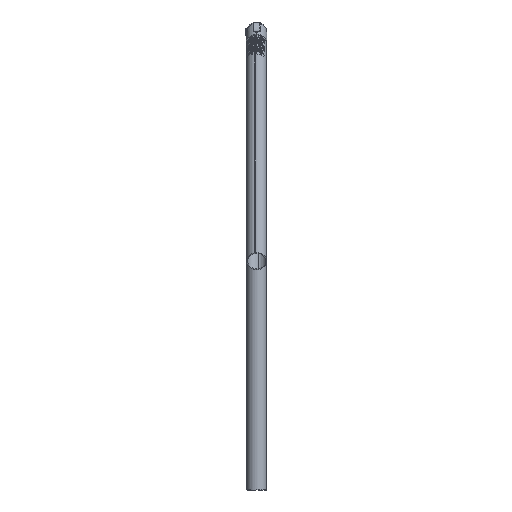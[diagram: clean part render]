
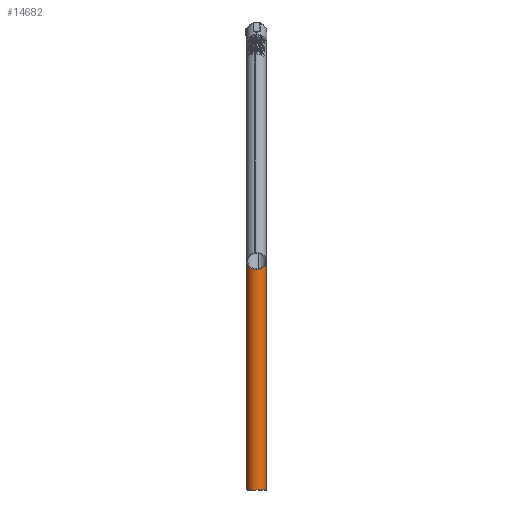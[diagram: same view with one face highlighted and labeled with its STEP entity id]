
A CAD part, left-side view. The second image highlights one B-rep face of the part: STEP entity #14682.
In plain terms, the highlighted cylindrical face has radius 13.716 mm (diameter 27.432 mm), a partial arc.
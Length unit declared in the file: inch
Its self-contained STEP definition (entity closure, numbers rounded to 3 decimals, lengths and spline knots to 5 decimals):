
#575 = CIRCLE ( 'NONE', #4131, 0.54 ) ;
#1312 = AXIS2_PLACEMENT_3D ( 'NONE', #3614, #3832, #11319 ) ;
#2403 = LINE ( 'NONE', #6441, #5381 ) ;
#2982 = VERTEX_POINT ( 'NONE', #7430 ) ;
#3614 = CARTESIAN_POINT ( 'NONE',  ( 0., 0., 0. ) ) ;
#3832 = DIRECTION ( 'NONE',  ( 1., 0., 0. ) ) ;
#3876 = FACE_OUTER_BOUND ( 'NONE', #8111, .T. ) ;
#4131 = AXIS2_PLACEMENT_3D ( 'NONE', #12816, #11948, #10376 ) ;
#4888 = CARTESIAN_POINT ( 'NONE',  ( 0., 0., 0.54 ) ) ;
#4964 = ORIENTED_EDGE ( 'NONE', *, *, #7136, .T. ) ;
#5061 = EDGE_CURVE ( 'NONE', #8481, #15756, #11317, .T. ) ;
#5381 = VECTOR ( 'NONE', #11294, 39.37008 ) ;
#6441 = CARTESIAN_POINT ( 'NONE',  ( 0., 0., -0.54 ) ) ;
#6928 = CYLINDRICAL_SURFACE ( 'NONE', #1312, 0.54 ) ;
#7136 = EDGE_CURVE ( 'NONE', #2982, #13033, #575, .T. ) ;
#7231 = DIRECTION ( 'NONE',  ( 0., 0., -1. ) ) ;
#7430 = CARTESIAN_POINT ( 'NONE',  ( -24., 0., 0.54 ) ) ;
#8111 = EDGE_LOOP ( 'NONE', ( #15678, #4964, #11788, #14200 ) ) ;
#8131 = LINE ( 'NONE', #11546, #11385 ) ;
#8481 = VERTEX_POINT ( 'NONE', #4888 ) ;
#10376 = DIRECTION ( 'NONE',  ( 0., 0., -1. ) ) ;
#11221 = CARTESIAN_POINT ( 'NONE',  ( 0., 0., -0.54 ) ) ;
#11294 = DIRECTION ( 'NONE',  ( 1., 0., 0. ) ) ;
#11317 = CIRCLE ( 'NONE', #14699, 0.54 ) ;
#11319 = DIRECTION ( 'NONE',  ( 0., 0., -1. ) ) ;
#11385 = VECTOR ( 'NONE', #14042, 39.37008 ) ;
#11546 = CARTESIAN_POINT ( 'NONE',  ( 0., 0., 0.54 ) ) ;
#11788 = ORIENTED_EDGE ( 'NONE', *, *, #12222, .T. ) ;
#11948 = DIRECTION ( 'NONE',  ( 1., 0., 0. ) ) ;
#12222 = EDGE_CURVE ( 'NONE', #13033, #15756, #2403, .T. ) ;
#12288 = EDGE_CURVE ( 'NONE', #2982, #8481, #8131, .T. ) ;
#12667 = CARTESIAN_POINT ( 'NONE',  ( -24., 0., -0.54 ) ) ;
#12816 = CARTESIAN_POINT ( 'NONE',  ( -24., 0., 0. ) ) ;
#13033 = VERTEX_POINT ( 'NONE', #12667 ) ;
#13760 = DIRECTION ( 'NONE',  ( 1., 0., 0. ) ) ;
#13821 = CARTESIAN_POINT ( 'NONE',  ( 0., 0., 0. ) ) ;
#14042 = DIRECTION ( 'NONE',  ( 1., 0., 0. ) ) ;
#14200 = ORIENTED_EDGE ( 'NONE', *, *, #5061, .F. ) ;
#14682 = ADVANCED_FACE ( 'NONE', ( #3876 ), #6928, .T. ) ;
#14699 = AXIS2_PLACEMENT_3D ( 'NONE', #13821, #13760, #7231 ) ;
#15678 = ORIENTED_EDGE ( 'NONE', *, *, #12288, .F. ) ;
#15756 = VERTEX_POINT ( 'NONE', #11221 ) ;
